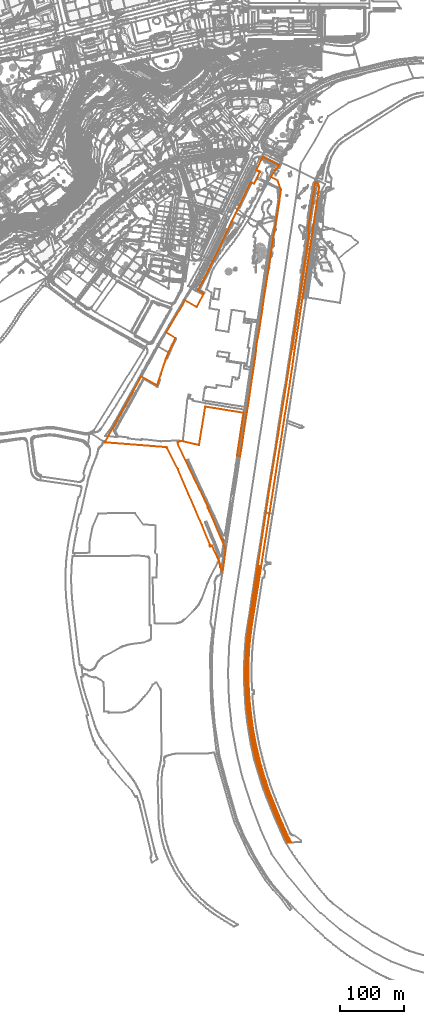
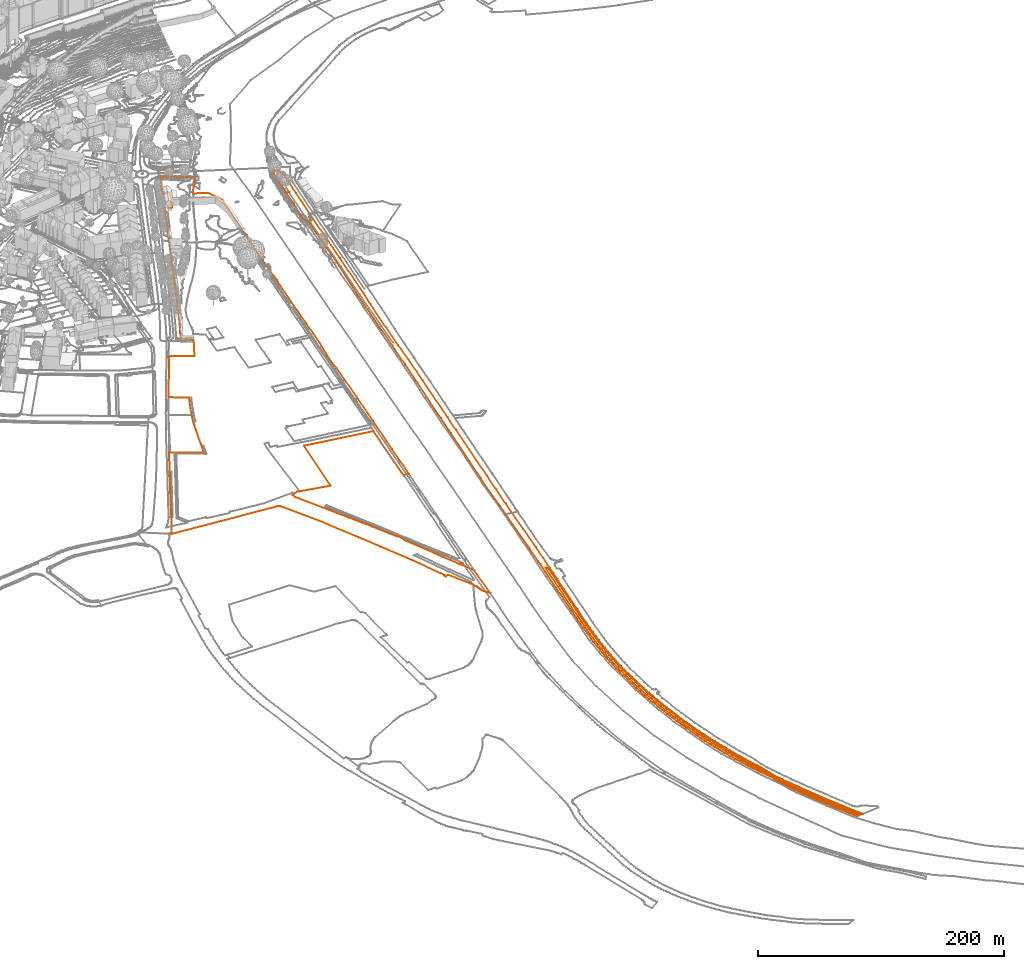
# Not in any storey, part 88 of 494: 2 proxies.
"""IFC2X3 model written with IfcOpenShell, lengths in metres."""

import ifcopenshell
import ifcopenshell.guid

model = None  # the IFC model being written
_history = None  # IfcOwnerHistory: only IFC2X3 demands one
_inside = {}  # id of a spatial element -> (the spatial element, [elements in it])
_under = {}  # id of a project, library or spatial element -> (it, [spatial elements below it])
_declared = {}  # id of a project -> (the project, [libraries it declares])
_typed = {}  # id of a type object -> (the type object, [elements of that type])
_made_of = {}  # id of a material, layer set ... -> (it, [elements and type objects made of it])


def new_model(schema):
    """Start an empty IFC model of exactly this schema.

    Asked for "IFC4X3", IfcOpenShell would pick the latest addendum, in which some entities
    have other attributes; the version numbers below select the first issue.
    IFC2X3 requires an IfcOwnerHistory on every rooted entity: one is made here for all.
    """
    global model, _history
    if schema == "IFC4X3":
        model = ifcopenshell.file(schema_version=(4, 3, 0, 0))
    else:
        model = ifcopenshell.file(schema=schema)
    _inside.clear()
    _under.clear()
    _declared.clear()
    _typed.clear()
    _made_of.clear()
    _history = None
    if model.schema == "IFC2X3":
        org = make("IfcOrganization", Name="unknown")
        user = make(
            "IfcPersonAndOrganization",
            ThePerson=make("IfcPerson", FamilyName="unknown"),
            TheOrganization=org,
        )
        app = make(
            "IfcApplication",
            ApplicationDeveloper=org,
            Version="unknown",
            ApplicationFullName="unknown",
            ApplicationIdentifier="unknown",
        )
        _history = make(
            "IfcOwnerHistory",
            OwningUser=user,
            OwningApplication=app,
            ChangeAction="ADDED",
            CreationDate=0,
        )
    return model


def make(cls, **values):
    """One entity of the class cls with the attributes given. An attribute that is None is left unset."""
    return model.create_entity(
        cls, **{name: value for name, value in values.items() if value is not None}
    )


def entity(cls, *values):
    """Any entity or typed value of the class cls, its attributes in the order of the schema. None: left unset."""
    e = model.create_entity(cls)
    for i, value in enumerate(values):
        if value is not None:
            e[i] = value
    return e


def rooted(cls, **values):
    """An entity with a GlobalId (a new one), such as an element, a storey or a relation."""
    return make(cls, GlobalId=ifcopenshell.guid.new(), OwnerHistory=_history, **values)


def si_unit(unit_type, name, prefix=None):
    """IfcSIUnit, for example si_unit("LENGTHUNIT", "METRE", prefix="MILLI")."""
    return make("IfcSIUnit", UnitType=unit_type, Prefix=prefix, Name=name)


def assignment(units):
    """IfcUnitAssignment: the units of a project."""
    return None if units is None else make("IfcUnitAssignment", Units=units)


def point(xyz):
    """IfcCartesianPoint."""
    return None if xyz is None else make("IfcCartesianPoint", Coordinates=xyz)


def direction(xyz):
    """IfcDirection."""
    return None if xyz is None else make("IfcDirection", DirectionRatios=xyz)


def frame(location, z_axis=None, x_axis=None):
    """IfcAxis2Placement3D, a coordinate frame: its origin and axes. An axis left out is left unset."""
    return make(
        "IfcAxis2Placement3D",
        Location=point(location),
        Axis=direction(z_axis),
        RefDirection=direction(x_axis),
    )


def origin_with_axes():
    """The frame at (0, 0, 0) with the z axis (0, 0, 1) and the x axis (1, 0, 0) written out."""
    return frame((0.0, 0.0, 0.0), z_axis=(0.0, 0.0, 1.0), x_axis=(1.0, 0.0, 0.0))


def place(relative_to, where):
    """IfcLocalPlacement: puts the frame where relative to a parent placement (None: the world)."""
    return make(
        "IfcLocalPlacement", PlacementRelTo=relative_to, RelativePlacement=where
    )


def context(
    kind, dimensions, precision=None, world=None, true_north=None, identifier=None
):
    """IfcGeometricRepresentationContext, for example the 3D "Model" context."""
    return make(
        "IfcGeometricRepresentationContext",
        ContextIdentifier=identifier,
        ContextType=kind,
        CoordinateSpaceDimension=dimensions,
        Precision=precision,
        WorldCoordinateSystem=world,
        TrueNorth=true_north,
    )


def subcontext(parent, identifier, kind, view, scale=None):
    """IfcGeometricRepresentationSubContext, for example "Body" below "Model"."""
    return make(
        "IfcGeometricRepresentationSubContext",
        ContextIdentifier=identifier,
        ContextType=kind,
        ParentContext=parent,
        TargetScale=scale,
        TargetView=view,
    )


def project(units=None, contexts=None):
    """IfcProject with its units and contexts."""
    return rooted(
        "IfcProject",
        Name="project",
        RepresentationContexts=contexts,
        UnitsInContext=assignment(units),
    )


def shape(context_of_items, identifier, shape_type, items):
    """IfcShapeRepresentation: the items that make up one representation, for example the "Body"."""
    return make(
        "IfcShapeRepresentation",
        ContextOfItems=context_of_items,
        RepresentationIdentifier=identifier,
        RepresentationType=shape_type,
        Items=items,
    )


def made_of(thing, what):
    """Note that an element or type object is made of a material, layer set ...; save() writes the relation."""
    if what is not None:
        _made_of.setdefault(what.id(), (what, []))[1].append(thing)
    return thing


def element(
    cls,
    number,
    at=None,
    inside=None,
    cuts=None,
    type_object=None,
    material=None,
    context=None,
    identifier="Body",
    shape_type=None,
    held_by="IfcProductDefinitionShape",
    body=None,
    shapes=None,
    **own,
):
    """One element of the class cls, such as IfcWall. Its Tag is "e" and its number.

    at: its placement. inside: the storey or other place that contains it. cuts: it is an
    opening in that element (IfcRelVoidsElement). A single representation is given by context,
    identifier, shape_type and body (its items); several are given by shapes. held_by: the class
    of the entity that holds the representations. save() writes the other relations.
    """
    e = rooted(cls, Tag="e%d" % number, ObjectPlacement=at, **own)
    if body is not None:
        shapes = [shape(context, identifier, shape_type, body)]
    if shapes is not None:
        e.Representation = make(held_by, Representations=shapes)
    if inside is not None:
        _inside.setdefault(inside.id(), (inside, []))[1].append(e)
    if cuts is not None:
        rooted(
            "IfcRelVoidsElement", RelatingBuildingElement=cuts, RelatedOpeningElement=e
        )
    if type_object is not None:
        _typed.setdefault(type_object.id(), (type_object, []))[1].append(e)
    return made_of(e, material)


def aggregate(whole, parts):
    """IfcRelAggregates: a whole, such as a stair, and the parts it consists of."""
    return rooted("IfcRelAggregates", RelatingObject=whole, RelatedObjects=parts)


def save(model, path):
    """Write the relations noted so far, then the file.

    IfcRelAggregates (storeys below a building ...), IfcRelContainedInSpatialStructure (elements
    in a storey), IfcRelDefinesByType, IfcRelAssociatesMaterial and IfcRelDeclares: one each for
    every whole, place, type object, material and project.
    """
    for whole, parts in _under.values():
        aggregate(whole, parts)
    for where, things in _inside.values():
        rooted(
            "IfcRelContainedInSpatialStructure",
            RelatedElements=things,
            RelatingStructure=where,
        )
    for kind, things in _typed.values():
        rooted("IfcRelDefinesByType", RelatedObjects=things, RelatingType=kind)
    for what, things in _made_of.values():
        rooted("IfcRelAssociatesMaterial", RelatedObjects=things, RelatingMaterial=what)
    for by, libraries in _declared.values():
        rooted("IfcRelDeclares", RelatingContext=by, RelatedDefinitions=libraries)
    model.write(path)


model = new_model("IFC2X3")

# Units and contexts
model_context = context("Model", 3, precision=1e-05, world=origin_with_axes())
body_context = subcontext(model_context, "Body", "Model", "MODEL_VIEW")
ifc_project = project(units=[si_unit("AREAUNIT", "SQUARE_METRE"), si_unit("LENGTHUNIT", "METRE")], contexts=[model_context])

# Proxies
proxy_1_placement = place(None, frame((568.6067320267, -620.2152839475, 501.975737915), z_axis=(0.0, 0.0, 1.0), x_axis=(1.0, 0.0, 0.0)))
element("IfcBuildingElementProxy", 1, at=proxy_1_placement, Name="Roads Outline 110", ObjectType="NOTDEFINED", context=body_context, shape_type="GeometricCurveSet", body=[
    entity("IfcGeometricCurveSet", [entity("IfcPolyline", [entity("IfcCartesianPoint", [0.0, 0.0, 0.0]), entity("IfcCartesianPoint", [0.074, 6.058, -0.0008581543]), entity("IfcCartesianPoint", [0.216, 12.1140000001, -0.0025048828]), entity("IfcCartesianPoint", [0.423, 18.169, -0.0049053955]), entity("IfcCartesianPoint", [0.6970000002, 24.22, -0.0066101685]), entity("IfcCartesianPoint", [1.037, 30.2689999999, -0.0065790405]), entity("IfcCartesianPoint", [1.4440000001, 36.3129999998, -0.0065417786]), entity("IfcCartesianPoint", [1.9180000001, 42.3529999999, -0.0082456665]), entity("IfcCartesianPoint", [2.4569999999, 48.3869999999, -0.0109104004]), entity("IfcCartesianPoint", [2.977, 53.625, -0.0070631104]), entity("IfcCartesianPoint", [3.551, 58.8570000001, -0.0008270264]), entity("IfcCartesianPoint", [4.6239999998, 66.9239999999, 0.0222953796]), entity("IfcCartesianPoint", [5.747, 74.9849999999, 0.0247244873]), entity("IfcCartesianPoint", [6.9199999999, 83.0379999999, 0.0336768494]), entity("IfcCartesianPoint", [9.6520000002, 100.5659999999, -0.0611358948]), entity("IfcCartesianPoint", [14.8670000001, 135.169, -0.0036011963]), entity("IfcCartesianPoint", [18.6880000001, 159.4409999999, 0.1321560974]), entity("IfcCartesianPoint", [19.503, 165.253, 0.1411845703]), entity("IfcCartesianPoint", [19.6040000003, 165.8329999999, 0.1427294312]), entity("IfcCartesianPoint", [20.4100000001, 170.487, 0.1620628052]), entity("IfcCartesianPoint", [20.5040000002, 171.0289999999, 0.1643175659]), entity("IfcCartesianPoint", [21.2220000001, 175.487, 0.1805467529]), entity("IfcCartesianPoint", [23.8990000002, 194.0360000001, 0.186010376]), entity("IfcCartesianPoint", [24.148, 195.672, 0.1871958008]), entity("IfcCartesianPoint", [24.318, 196.787, 0.188005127]), entity("IfcCartesianPoint", [33.7290000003, 258.655, -0.2722614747]), entity("IfcCartesianPoint", [37.3160000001, 283.058, -1.1686599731]), entity("IfcCartesianPoint", [40.497, 302.5970000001, -1.1722862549]), entity("IfcCartesianPoint", [44.46, 327.443, -1.1360731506]), entity("IfcCartesianPoint", [51.3939999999, 369.362, -1.1387459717]), entity("IfcCartesianPoint", [54.716, 391.45, -1.1532310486]), entity("IfcCartesianPoint", [63.6140000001, 445.0119999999, -1.1895050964]), entity("IfcCartesianPoint", [67.821, 472.3389999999, -1.1724389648]), entity("IfcCartesianPoint", [72.1350000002, 500.3149999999, -1.1918443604]), entity("IfcCartesianPoint", [76.3029999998, 528.5060000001, -1.1274802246]), entity("IfcCartesianPoint", [80.1669999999, 554.2989999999, -1.1873198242]), entity("IfcCartesianPoint", [83.3850000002, 575.5349999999, -1.1006702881]), entity("IfcCartesianPoint", [89.233, 613.9749999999, 0.7361196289]), entity("IfcCartesianPoint", [95.7489999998, 657.0759999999, 0.7942645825]), entity("IfcCartesianPoint", [99.0520000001, 681.024, 0.9663088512]), entity("IfcCartesianPoint", [97.6060000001, 688.959, 0.7845889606]), entity("IfcCartesianPoint", [101.5150000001, 711.341, 1.2635206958]), entity("IfcCartesianPoint", [103.7960000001, 727.121, 1.577916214]), entity("IfcCartesianPoint", [106.2439999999, 726.747, 1.6538060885]), entity("IfcCartesianPoint", [106.304, 727.142, 1.6608155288]), entity("IfcCartesianPoint", [103.8569999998, 727.5160000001, 1.6076824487]), entity("IfcCartesianPoint", [108.4530000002, 757.2050000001, 2.5203351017]), entity("IfcCartesianPoint", [108.0830000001, 757.385, 2.5600871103]), entity("IfcCartesianPoint", [109.2400000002, 759.7169999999, 2.4624631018]), entity("IfcCartesianPoint", [109.713, 759.4849999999, 2.4081204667]), entity("IfcCartesianPoint", [110.4050000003, 759.044, 2.3776317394]), entity("IfcCartesianPoint", [111.057, 758.5459999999, 2.3438039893]), entity("IfcCartesianPoint", [111.6639999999, 757.9939999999, 2.3172211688]), entity("IfcCartesianPoint", [112.2220000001, 757.392, 2.3171706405]), entity("IfcCartesianPoint", [112.727, 756.7449999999, 2.3392560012]), entity("IfcCartesianPoint", [113.1750000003, 756.058, 2.332768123]), entity("IfcCartesianPoint", [113.5630000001, 755.335, 2.304315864]), entity("IfcCartesianPoint", [113.8939999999, 754.5659999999, 2.2908242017]), entity("IfcCartesianPoint", [114.1570000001, 753.7709999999, 2.2643686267]), entity("IfcCartesianPoint", [114.3500000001, 752.9569999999, 2.2278802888]), entity("IfcCartesianPoint", [114.4720000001, 752.128, 2.2351414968]), entity("IfcCartesianPoint", [114.5219999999, 751.2930000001, 2.1973674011]), entity("IfcCartesianPoint", [114.4980000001, 750.456, 2.1555936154]), entity("IfcCartesianPoint", [114.4029999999, 749.6240000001, 2.130633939]), entity("IfcCartesianPoint", [110.4739999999, 723.402, 1.4649871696]), entity("IfcCartesianPoint", [108.3450000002, 709.4409999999, 1.2927663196]), entity("IfcCartesianPoint", [100.2370000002, 655.7249999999, 0.7095744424]), entity("IfcCartesianPoint", [95.8769999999, 626.8540000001, 0.6976692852]), entity("IfcCartesianPoint", [88.0240000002, 574.679, 0.2772061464]), entity("IfcCartesianPoint", [85.75, 559.5959999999, -0.9008512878]), entity("IfcCartesianPoint", [80.4870000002, 524.6839999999, -1.1909428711]), entity("IfcCartesianPoint", [76.5759999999, 498.925, -1.1364573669]), entity("IfcCartesianPoint", [73.5649999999, 476.7309999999, -1.1513120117]), entity("IfcCartesianPoint", [68.9530000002, 445.8499999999, -1.2243086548]), entity("IfcCartesianPoint", [60.2340000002, 390.274, -1.2055106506]), entity("IfcCartesianPoint", [57.2850000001, 371.2590000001, -1.1775828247]), entity("IfcCartesianPoint", [50.077, 325.2749999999, -1.123829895]), entity("IfcCartesianPoint", [46.4449999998, 302.1979999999, -1.1230756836]), entity("IfcCartesianPoint", [43.1779999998, 281.226, -1.1444847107]), entity("IfcCartesianPoint", [39.8880000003, 260.2849999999, -1.1779361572]), entity("IfcCartesianPoint", [33.9210000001, 222.1850000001, -0.3636560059]), entity("IfcCartesianPoint", [29.3820000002, 193.236, 0.3308495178]), entity("IfcCartesianPoint", [26.7549999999, 176.4919999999, 0.1766451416]), entity("IfcCartesianPoint", [25.1430000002, 166.5600000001, 0.1818431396]), entity("IfcCartesianPoint", [24.4360000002, 161.804, 0.1885668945]), entity("IfcCartesianPoint", [23.2400000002, 154.0999999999, 0.1833579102]), entity("IfcCartesianPoint", [21.8190000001, 145.2709999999, 0.1865919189]), entity("IfcCartesianPoint", [19.4220000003, 130.102, 0.140287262]), entity("IfcCartesianPoint", [14.7620000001, 100.4720000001, -0.0078661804]), entity("IfcCartesianPoint", [11.3510000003, 78.699, -0.0565014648]), entity("IfcCartesianPoint", [10.398, 72.3959999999, -0.0620693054]), entity("IfcCartesianPoint", [9.5150000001, 66.0829999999, -0.0597801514]), entity("IfcCartesianPoint", [8.7009999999, 59.76, -0.0415466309]), entity("IfcCartesianPoint", [8.0079999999, 53.8799999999, -0.0097011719]), entity("IfcCartesianPoint", [7.375, 47.9919999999, 0.0190554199]), entity("IfcCartesianPoint", [6.8020000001, 42.0989999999, 0.0374687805]), entity("IfcCartesianPoint", [6.3229999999, 36.2679999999, 0.0388221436]), entity("IfcCartesianPoint", [5.9169999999, 30.432, 0.0288852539]), entity("IfcCartesianPoint", [5.5840000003, 24.591, 0.0207350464]), entity("IfcCartesianPoint", [5.324, 18.746, 0.0209068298]), entity("IfcCartesianPoint", [5.1370000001, 12.899, 0.021277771]), entity("IfcCartesianPoint", [5.0240000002, 7.0489999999, 0.0215019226]), entity("IfcCartesianPoint", [4.983, 1.199, 0.021583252]), entity("IfcCartesianPoint", [5.014, -5.1440000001, 0.021521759]), entity("IfcCartesianPoint", [5.1180000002, -11.486, 0.0213154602]), entity("IfcCartesianPoint", [5.2940000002, -17.827, 0.0209663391]), entity("IfcCartesianPoint", [5.5430000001, -24.165, 0.0204724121]), entity("IfcCartesianPoint", [5.8640000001, -30.5, 0.0275880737]), entity("IfcCartesianPoint", [6.2570000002, -36.831, 0.0372067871]), entity("IfcCartesianPoint", [6.7540000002, -43.5109999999, 0.039011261]), entity("IfcCartesianPoint", [7.3300000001, -50.1840000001, 0.0205014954]), entity("IfcCartesianPoint", [7.9849999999, -56.8500000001, -0.008519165]), entity("IfcCartesianPoint", [8.719, -63.507, -0.0419498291]), entity("IfcCartesianPoint", [9.5320000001, -70.156, -0.0601609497]), entity("IfcCartesianPoint", [10.3020000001, -75.9790000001, -0.0619491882]), entity("IfcCartesianPoint", [11.1350000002, -81.794, -0.0581032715]), entity("IfcCartesianPoint", [12.0329999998, -87.5989999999, -0.0598187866]), entity("IfcCartesianPoint", [12.9939999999, -93.3940000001, -0.0642133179]), entity("IfcCartesianPoint", [14.0180000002, -99.1780000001, -0.0414618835]), entity("IfcCartesianPoint", [15.1609999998, -105.2450000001, 0.0083407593]), entity("IfcCartesianPoint", [16.375, -111.298, 0.0654055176]), entity("IfcCartesianPoint", [17.659, -117.3360000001, 0.1205064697]), entity("IfcCartesianPoint", [19.0120000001, -123.3600000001, 0.1357453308]), entity("IfcCartesianPoint", [20.4360000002, -129.3670000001, 0.1626864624]), entity("IfcCartesianPoint", [21.8930000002, -135.209, 0.1860567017]), entity("IfcCartesianPoint", [23.415, -141.034, 0.1839346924]), entity("IfcCartesianPoint", [25.0019999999, -146.841, 0.1836589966]), entity("IfcCartesianPoint", [26.6540000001, -152.6310000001, 0.1712295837]), entity("IfcCartesianPoint", [28.3710000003, -158.4010000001, 0.2535772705]), entity("IfcCartesianPoint", [30.1520000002, -164.152, 0.358254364]), entity("IfcCartesianPoint", [31.9980000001, -169.8830000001, 0.3377287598]), entity("IfcCartesianPoint", [34.2439999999, -176.4950000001, -0.5174082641]), entity("IfcCartesianPoint", [36.551, -183.085, -1.1601147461]), entity("IfcCartesianPoint", [38.9169999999, -189.655, -1.1816155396]), entity("IfcCartesianPoint", [52.554, -223.6240000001, -1.1411969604]), entity("IfcCartesianPoint", [55.6860000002, -230.9440000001, -1.1624337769]), entity("IfcCartesianPoint", [58.8769999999, -238.2380000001, -1.1926525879]), entity("IfcCartesianPoint", [62.1269999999, -245.507, -1.2003508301]), entity("IfcCartesianPoint", [65.4350000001, -252.7490000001, -1.1762232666]), entity("IfcCartesianPoint", [68.8020000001, -259.9639999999, -1.2214838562]), entity("IfcCartesianPoint", [71.747, -265.2409999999, -1.1819691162]), entity("IfcCartesianPoint", [69.861, -265.3430000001, -1.2289047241]), entity("IfcCartesianPoint", [67.551, -260.655, -1.1577392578]), entity("IfcCartesianPoint", [64.165, -253.422, -1.1854862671]), entity("IfcCartesianPoint", [60.8450000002, -246.159, -1.2075300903]), entity("IfcCartesianPoint", [57.5890000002, -238.8659999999, -1.1804675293]), entity("IfcCartesianPoint", [54.3999999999, -231.544, -1.1502371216]), entity("IfcCartesianPoint", [51.2760000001, -224.1940000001, -1.1373919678]), entity("IfcCartesianPoint", [48.2760000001, -216.9580000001, -1.1130236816]), entity("IfcCartesianPoint", [45.3399999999, -209.6950000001, -1.1302992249]), entity("IfcCartesianPoint", [42.4679999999, -202.4070000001, -1.149608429]), entity("IfcCartesianPoint", [39.6609999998, -195.094, -1.1800421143]), entity("IfcCartesianPoint", [37.4250000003, -189.0760000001, -1.1698774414]), entity("IfcCartesianPoint", [35.2400000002, -183.04, -0.9915582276]), entity("IfcCartesianPoint", [33.105, -176.986, 0.0227229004]), entity("IfcCartesianPoint", [31.02, -170.9140000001, 0.3746740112]), entity("IfcCartesianPoint", [29.1529999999, -165.129, 0.3113724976]), entity("IfcCartesianPoint", [27.355, -159.3219999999, 0.2088167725]), entity("IfcCartesianPoint", [25.6260000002, -153.493, 0.1758058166]), entity("IfcCartesianPoint", [23.9670000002, -147.645, 0.1863341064]), entity("IfcCartesianPoint", [22.378, -141.777, 0.1825488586]), entity("IfcCartesianPoint", [20.8590000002, -135.8910000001, 0.1723934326]), entity("IfcCartesianPoint", [19.4100000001, -129.987, 0.1401543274]), entity("IfcCartesianPoint", [18.1540000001, -124.7150000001, 0.1261259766]), entity("IfcCartesianPoint", [16.9479999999, -119.432, 0.0919393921]), entity("IfcCartesianPoint", [15.7940000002, -114.1370000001, 0.0362030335]), entity("IfcCartesianPoint", [14.6910000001, -108.831, -0.0107501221]), entity("IfcCartesianPoint", [13.639, -103.5150000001, -0.0591696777]), entity("IfcCartesianPoint", [12.6180000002, -98.024, -0.0654296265]), entity("IfcCartesianPoint", [11.6540000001, -92.5220000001, -0.0557590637]), entity("IfcCartesianPoint", [10.7489999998, -87.0109999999, -0.0609657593]), entity("IfcCartesianPoint", [9.9020000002, -81.49, -0.0614487]), entity("IfcCartesianPoint", [9.1129999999, -75.96, -0.0507753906]), entity("IfcCartesianPoint", [8.3820000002, -70.423, -0.0289216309]), entity("IfcCartesianPoint", [7.5989999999, -64.0190000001, 0.0113179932]), entity("IfcCartesianPoint", [6.892, -57.6060000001, 0.0345766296]), entity("IfcCartesianPoint", [6.2590000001, -51.186, 0.0372557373]), entity("IfcCartesianPoint", [5.7009999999, -44.7590000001, 0.0235986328]), entity("IfcCartesianPoint", [5.219, -38.325, 0.0211151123]), entity("IfcCartesianPoint", [4.8020000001, -31.8419999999, 0.0219422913]), entity("IfcCartesianPoint", [4.46, -25.3540000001, 0.0198463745]), entity("IfcCartesianPoint", [4.1910000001, -18.8630000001, 0.0136566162]), entity("IfcCartesianPoint", [3.997, -12.3700000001, 0.009192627]), entity("IfcCartesianPoint", [3.8769999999, -5.8740000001, 0.0064313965]), entity("IfcCartesianPoint", [3.8310000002, 0.622, 0.0053729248]), entity("IfcCartesianPoint", [3.8259999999, 1.662, 0.0052578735]), entity("IfcCartesianPoint", [3.8229999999, 2.702, 0.0051888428]), entity("IfcCartesianPoint", [3.8530000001, 8.2849999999, 0.0058791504]), entity("IfcCartesianPoint", [3.9550000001, 13.8669999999, 0.0082261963]), entity("IfcCartesianPoint", [4.1299999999, 19.4469999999, 0.0122529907]), entity("IfcCartesianPoint", [4.378, 25.0249999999, 0.0179595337]), entity("IfcCartesianPoint", [4.6979999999, 30.598, 0.0221485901]), entity("IfcCartesianPoint", [5.091, 36.1669999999, 0.0213690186]), entity("IfcCartesianPoint", [5.5559999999, 41.7309999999, 0.0204466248]), entity("IfcCartesianPoint", [6.094, 47.2879999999, 0.0332173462]), entity("IfcCartesianPoint", [6.7960000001, 53.419, 0.0376615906]), entity("IfcCartesianPoint", [7.5389999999, 59.5449999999, 0.0137852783]), entity("IfcCartesianPoint", [8.3710000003, 66.01, -0.0283563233]), entity("IfcCartesianPoint", [9.2489999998, 72.4679999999, -0.0538217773]), entity("IfcCartesianPoint", [10.173, 78.9199999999, -0.0617877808]), entity("IfcCartesianPoint", [11.2489999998, 86.1189999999, -0.0572578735]), entity("IfcCartesianPoint", [12.378, 93.3100000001, -0.0635143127]), entity("IfcCartesianPoint", [13.5589999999, 100.4919999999, -0.0623856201]), entity("IfcCartesianPoint", [17.5189999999, 125.79, 0.1172064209]), entity("IfcCartesianPoint", [22.176, 155.5559999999, 0.1840098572]), entity("IfcCartesianPoint", [23.3450000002, 162.733, 0.1837039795]), entity("IfcCartesianPoint", [21.5279999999, 164.2239999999, 0.1874197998]), entity("IfcCartesianPoint", [20.7620000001, 159.1169999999, 0.1702147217]), entity("IfcCartesianPoint", [16.9709999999, 135.1639999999, 0.0929571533]), entity("IfcCartesianPoint", [11.4279999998, 100.5899999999, -0.0559304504]), entity("IfcCartesianPoint", [8.7110000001, 82.612, -0.0417706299]), entity("IfcCartesianPoint", [7.8059999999, 76.7309999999, 0.0006799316]), entity("IfcCartesianPoint", [6.9530000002, 70.8419999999, 0.032616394]), entity("IfcCartesianPoint", [6.1520000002, 64.9450000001, 0.0346369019]), entity("IfcCartesianPoint", [5.4029999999, 59.0419999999, 0.0207501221]), entity("IfcCartesianPoint", [4.7579999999, 53.5759999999, 0.0220295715]), entity("IfcCartesianPoint", [4.1579999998, 48.1040000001, 0.0128972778]), entity("IfcCartesianPoint", [3.591, 42.1529999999, -0.0001495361]), entity("IfcCartesianPoint", [3.1010000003, 36.1950000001, -0.0057159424]), entity("IfcCartesianPoint", [2.6890000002, 30.2309999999, -0.0101920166]), entity("IfcCartesianPoint", [2.3540000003, 24.263, -0.0104011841]), entity("IfcCartesianPoint", [2.0959999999, 18.29, -0.0091256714]), entity("IfcCartesianPoint", [1.9160000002, 12.3149999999, -0.0082357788]), entity("IfcCartesianPoint", [1.8140000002, 6.338, -0.0077315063]), entity("IfcCartesianPoint", [1.7889999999, 0.3599999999, -0.0076079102]), entity("IfcCartesianPoint", [1.8360000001, -6.1170000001, -0.007840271]), entity("IfcCartesianPoint", [1.9569999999, -12.5919999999, -0.0084384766]), entity("IfcCartesianPoint", [2.1520000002, -19.0660000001, -0.0094025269]), entity("IfcCartesianPoint", [2.4210000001, -25.537, -0.0107324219]), entity("IfcCartesianPoint", [2.764, -32.0050000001, -0.0093771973]), entity("IfcCartesianPoint", [3.1809999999, -38.4680000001, -0.0048468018]), entity("IfcCartesianPoint", [3.6770000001, -44.996, 0.0018293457]), entity("IfcCartesianPoint", [4.2480000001, -51.5179999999, 0.0149682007]), entity("IfcCartesianPoint", [4.895, -58.0320000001, 0.0217578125]), entity("IfcCartesianPoint", [5.6170000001, -64.5390000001, 0.0215427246]), entity("IfcCartesianPoint", [6.4139999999, -71.037, 0.0410493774]), entity("IfcCartesianPoint", [7.2170000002, -77.108, 0.0241327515]), entity("IfcCartesianPoint", [8.091, -83.169, -0.0139666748]), entity("IfcCartesianPoint", [9.0389999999, -89.219, -0.0491177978]), entity("IfcCartesianPoint", [10.0580000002, -95.257, -0.0616438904]), entity("IfcCartesianPoint", [11.1490000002, -101.2830000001, -0.0579994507]), entity("IfcCartesianPoint", [12.2430000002, -106.888, -0.0620682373]), entity("IfcCartesianPoint", [13.3930000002, -112.4810000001, -0.0629226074]), entity("IfcCartesianPoint", [14.5989999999, -118.0620000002, -0.0144870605]), entity("IfcCartesianPoint", [15.8620000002, -123.6310000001, 0.0396208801]), entity("IfcCartesianPoint", [17.1800000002, -129.1870000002, 0.1022055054]), entity("IfcCartesianPoint", [18.673, -135.243, 0.1319899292]), entity("IfcCartesianPoint", [20.236, -141.2820000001, 0.1578890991]), entity("IfcCartesianPoint", [21.8689999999, -147.301, 0.1862302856]), entity("IfcCartesianPoint", [23.5720000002, -153.3020000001, 0.1844536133]), entity("IfcCartesianPoint", [25.344, -159.2830000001, 0.1792545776]), entity("IfcCartesianPoint", [27.1850000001, -165.2420000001, 0.1997014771]), entity("IfcCartesianPoint", [29.0950000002, -171.1799999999, 0.3064394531]), entity("IfcCartesianPoint", [31.1779999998, -177.2860000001, 0.3775767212]), entity("IfcCartesianPoint", [33.3100000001, -183.375, -0.0739589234]), entity("IfcCartesianPoint", [35.4930000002, -189.4469999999, -1.112005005]), entity("IfcCartesianPoint", [37.7250000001, -195.5, -1.1731248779]), entity("IfcCartesianPoint", [49.5270000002, -225.2490000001, -1.1179465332]), entity("IfcCartesianPoint", [52.122, -231.3260000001, -1.1410123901]), entity("IfcCartesianPoint", [54.7710000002, -237.3800000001, -1.1537530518]), entity("IfcCartesianPoint", [57.4739999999, -243.4100000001, -1.1793766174]), entity("IfcCartesianPoint", [60.2310000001, -249.416, -1.2054821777]), entity("IfcCartesianPoint", [63.04, -255.3970000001, -1.1936916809]), entity("IfcCartesianPoint", [65.9029999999, -261.3530000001, -1.1728098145]), entity("IfcCartesianPoint", [67.9279999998, -265.4469999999, -1.178819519]), entity("IfcCartesianPoint", [65.9790000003, -265.5530000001, -1.1722554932]), entity("IfcCartesianPoint", [64.5929999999, -262.912, -1.182364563]), entity("IfcCartesianPoint", [61.6710000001, -256.8090000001, -1.2036767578]), entity("IfcCartesianPoint", [58.804, -250.6810000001, -1.1919619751]), entity("IfcCartesianPoint", [55.9920000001, -244.527, -1.1653286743]), entity("IfcCartesianPoint", [53.2349999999, -238.348, -1.1419945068]), entity("IfcCartesianPoint", [50.534, -232.1440000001, -1.1288924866]), entity("IfcCartesianPoint", [47.889, -225.9170000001, -1.1144881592]), entity("IfcCartesianPoint", [45.4309999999, -219.986, -1.1297021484]), entity("IfcCartesianPoint", [43.0240000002, -214.034, -1.1454951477]), entity("IfcCartesianPoint", [40.6669999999, -208.0620000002, -1.1704425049]), entity("IfcCartesianPoint", [38.3620000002, -202.0700000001, -1.1798121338]), entity("IfcCartesianPoint", [36.108, -196.058, -1.1551531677]), entity("IfcCartesianPoint", [33.196, -188.2690000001, -0.020194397]), entity("IfcCartesianPoint", [30.341, -180.459, 0.3619400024]), entity("IfcCartesianPoint", [27.5449999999, -172.628, 0.2190044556]), entity("IfcCartesianPoint", [24.8059999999, -164.777, 0.1861831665]), entity("IfcCartesianPoint", [22.9810000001, -158.9950000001, 0.1825042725]), entity("IfcCartesianPoint", [21.2290000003, -153.1899999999, 0.1807039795]), entity("IfcCartesianPoint", [19.5500000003, -147.3630000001, 0.1417052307]), entity("IfcCartesianPoint", [17.9449999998, -141.5160000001, 0.1237532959]), entity("IfcCartesianPoint", [16.415, -135.649, 0.0674160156]), entity("IfcCartesianPoint", [14.9580000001, -129.763, 9.51233e-05]), entity("IfcCartesianPoint", [13.6340000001, -124.142, -0.0594032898]), entity("IfcCartesianPoint", [12.3769999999, -118.5060000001, -0.0635036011]), entity("IfcCartesianPoint", [11.1869999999, -112.855, -0.0577176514]), entity("IfcCartesianPoint", [10.0649999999, -107.1899999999, -0.0616526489]), entity("IfcCartesianPoint", [9.0090000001, -101.513, -0.0484458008]), entity("IfcCartesianPoint", [7.9569999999, -95.4739999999, -0.0070802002]), entity("IfcCartesianPoint", [6.98, -89.422, 0.0317487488]), entity("IfcCartesianPoint", [6.0789999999, -83.3589999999, 0.0328502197]), entity("IfcCartesianPoint", [5.2519999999, -77.2850000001, 0.0210496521]), entity("IfcCartesianPoint", [4.5010000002, -71.2010000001, 0.0207897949]), entity("IfcCartesianPoint", [3.7119999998, -64.6510000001, 0.0026347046]), entity("IfcCartesianPoint", [2.9870000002, -58.0930000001, -0.0069544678]), entity("IfcCartesianPoint", [2.327, -51.5279999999, -0.0102677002]), entity("IfcCartesianPoint", [1.7319999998, -44.9569999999, -0.0073261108]), entity("IfcCartesianPoint", [1.202, -38.3810000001, -0.0065639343]), entity("IfcCartesianPoint", [0.804, -31.9920000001, -0.0066003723]), entity("IfcCartesianPoint", [0.486, -25.5989999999, -0.0056359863]), entity("IfcCartesianPoint", [0.2460000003, -19.202, -0.0028527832]), entity("IfcCartesianPoint", [0.085, -12.8020000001, -0.0009857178]), entity("IfcCartesianPoint", [0.003, -6.4010000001, -3.479e-05]), entity("IfcCartesianPoint", [0.0, 0.0, 0.0])])]),
])
proxy_2_placement = place(None, frame((350.3227320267, -264.1862839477, 503.2477230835), z_axis=(0.0, 0.0, 1.0), x_axis=(1.0, 0.0, 0.0)))
element("IfcBuildingElementProxy", 2, at=proxy_2_placement, Name="Cadastre 147", ObjectType="NOTDEFINED", context=body_context, shape_type="GeometricCurveSet", body=[
    entity("IfcGeometricCurveSet", [entity("IfcPolyline", [entity("IfcCartesianPoint", [0.0, 0.0, 0.0]), entity("IfcCartesianPoint", [10.6000000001, 18.621, -0.2825669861]), entity("IfcCartesianPoint", [22.4500000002, 40.7170000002, -0.5289651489]), entity("IfcCartesianPoint", [53.5830000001, 96.8330000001, -1.0836112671]), entity("IfcCartesianPoint", [56.6129999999, 102.1930000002, -1.1209400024]), entity("IfcCartesianPoint", [81.2850000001, 88.3530000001, -1.3441882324]), entity("IfcCartesianPoint", [87.2310000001, 106.223, -1.2342042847]), entity("IfcCartesianPoint", [91.5720000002, 119.3530000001, -1.2645101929]), entity("IfcCartesianPoint", [93.5619999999, 125.003, -1.279603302]), entity("IfcCartesianPoint", [94.7090000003, 128.1460000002, -1.2756437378]), entity("IfcCartesianPoint", [95.906, 131.27, -1.2735786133]), entity("IfcCartesianPoint", [97.1520000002, 134.3740000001, -1.2660647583]), entity("IfcCartesianPoint", [98.4789999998, 137.6070000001, -1.2700553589]), entity("IfcCartesianPoint", [99.8599999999, 140.817, -1.2199867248]), entity("IfcCartesianPoint", [101.2930000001, 144.0040000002, -1.2719567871]), entity("IfcCartesianPoint", [105.2829999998, 152.6040000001, -1.3580748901]), entity("IfcCartesianPoint", [109.6740000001, 161.594, -1.3455012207]), entity("IfcCartesianPoint", [95.3760000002, 170.564, -1.2740407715]), entity("IfcCartesianPoint", [120.8470000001, 213.3250000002, -1.2408973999]), entity("IfcCartesianPoint", [124.4399999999, 220.6300000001, -1.2829025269]), entity("IfcCartesianPoint", [142.7110000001, 209.9550000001, -0.761979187]), entity("IfcCartesianPoint", [152.9870000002, 229.223, -0.8975912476]), entity("IfcCartesianPoint", [152.5529999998, 229.4380000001, -0.90090271]), entity("IfcCartesianPoint", [153.5290000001, 231.0430000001, -0.9197555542]), entity("IfcCartesianPoint", [144.747, 236.2450000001, -0.8859556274]), entity("IfcCartesianPoint", [152.5279999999, 250.6460000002, -0.9016236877]), entity("IfcCartesianPoint", [160.358, 266.0560000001, -1.058708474]), entity("IfcCartesianPoint", [167.8790000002, 281.6460000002, -1.0743693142]), entity("IfcCartesianPoint", [167.9890000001, 281.5960000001, -1.0851980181]), entity("IfcCartesianPoint", [226.6189999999, 404.186, -0.7053849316]), entity("IfcCartesianPoint", [232.1359999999, 401.544, -0.9589194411]), entity("IfcCartesianPoint", [241.034, 420.159, -0.7852908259]), entity("IfcCartesianPoint", [235.52, 422.8010000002, -0.6842505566]), entity("IfcCartesianPoint", [245.2039999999, 443.0530000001, -0.1415204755]), entity("IfcCartesianPoint", [270.952, 430.4640000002, -2.2228779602]), entity("IfcCartesianPoint", [265.3220000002, 424.1030000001, -1.7656507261]), entity("IfcCartesianPoint", [258.0130000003, 411.9710000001, -2.5167092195]), entity("IfcCartesianPoint", [268.7319999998, 406.5220000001, -2.437278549]), entity("IfcCartesianPoint", [273.852, 392.0410000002, -2.3644540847]), entity("IfcCartesianPoint", [266.5440000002, 344.888, -2.5388882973]), entity("IfcCartesianPoint", [264.3050000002, 335.4680000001, -1.9758593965]), entity("IfcCartesianPoint", [262.9350000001, 324.9780000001, -2.3666528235]), entity("IfcCartesianPoint", [250.1400000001, 242.1360000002, -0.9186038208]), entity("IfcCartesianPoint", [247.4390000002, 225.1850000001, -0.9604425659]), entity("IfcCartesianPoint", [244.7390000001, 205.6040000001, -1.1040979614]), entity("IfcCartesianPoint", [240.318, 175.8020000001, -1.0869482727]), entity("IfcCartesianPoint", [235.8369999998, 152.4800000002, -1.153274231]), entity("IfcCartesianPoint", [234.5470000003, 138.0490000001, -1.2122090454]), entity("IfcCartesianPoint", [231.8369999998, 119.4980000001, -1.3343901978]), entity("IfcCartesianPoint", [228.0660000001, 94.767, -1.3332837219]), entity("IfcCartesianPoint", [222.855, 58.8940000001, -1.2495846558]), entity("IfcCartesianPoint", [215.9640000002, 16.091, -1.2828160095]), entity("IfcCartesianPoint", [212.4530000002, -8.5599999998, -1.267366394]), entity("IfcCartesianPoint", [210.3229999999, -21.291, -1.2698099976]), entity("IfcCartesianPoint", [205.4530000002, -20.531, -1.2787252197]), entity("IfcCartesianPoint", [215.5750000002, 45.7640000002, -1.277527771]), entity("IfcCartesianPoint", [156.0869999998, 55.4470000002, -0.818260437]), entity("IfcCartesianPoint", [146.4950000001, -4.3569999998, -0.8156686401]), entity("IfcCartesianPoint", [118.926, 2.165, -1.2108586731]), entity("IfcCartesianPoint", [113.3459999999, 0.175, -1.2675257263]), entity("IfcCartesianPoint", [113.9360000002, -3.3949999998, -1.2788543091]), entity("IfcCartesianPoint", [142.1340000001, -62.2009999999, -0.7487903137]), entity("IfcCartesianPoint", [146.8629999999, -71.5719999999, -0.8096906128]), entity("IfcCartesianPoint", [154.0630000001, -86.5229999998, -0.9227401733]), entity("IfcCartesianPoint", [157.3190000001, -93.8259999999, -0.8035988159]), entity("IfcCartesianPoint", [157.7620000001, -93.5939999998, -0.855634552]), entity("IfcCartesianPoint", [160.6269999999, -100.784, -1.2177380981]), entity("IfcCartesianPoint", [160.1660000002, -100.977, -1.1763623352]), entity("IfcCartesianPoint", [181.9700000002, -151.7589999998, -1.448805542]), entity("IfcCartesianPoint", [183.5600000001, -151.0689999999, -1.4595140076]), entity("IfcCartesianPoint", [184.3199999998, -152.7789999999, -1.4522181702]), entity("IfcCartesianPoint", [182.7200000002, -153.5089999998, -1.4583728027]), entity("IfcCartesianPoint", [188.0890000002, -166.0399999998, -1.3678596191]), entity("IfcCartesianPoint", [183.2280000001, -200.453, -1.4597875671]), entity("IfcCartesianPoint", [179.2390000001, -193.7319999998, -1.4383287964]), entity("IfcCartesianPoint", [179.179, -192.3679999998, -1.4396984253]), entity("IfcCartesianPoint", [179.0529999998, -191.0089999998, -1.442574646]), entity("IfcCartesianPoint", [178.861, -189.6579999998, -1.4469574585]), entity("IfcCartesianPoint", [178.602, -188.3169999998, -1.4424078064]), entity("IfcCartesianPoint", [178.2790000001, -186.9909999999, -1.4364244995]), entity("IfcCartesianPoint", [177.9530000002, -185.6699999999, -1.4303856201]), entity("IfcCartesianPoint", [177.5630000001, -184.3659999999, -1.4383814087]), entity("IfcCartesianPoint", [177.1099999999, -183.0829999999, -1.4536021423]), entity("IfcCartesianPoint", [176.5950000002, -181.8239999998, -1.4644869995]), entity("IfcCartesianPoint", [176.0189999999, -180.591, -1.469619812]), entity("IfcCartesianPoint", [166.5600000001, -160.5589999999, -1.5593609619]), entity("IfcCartesianPoint", [163.7800000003, -161.7589999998, -1.4344792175]), entity("IfcCartesianPoint", [162.9700000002, -160.0589999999, -1.3799732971]), entity("IfcCartesianPoint", [163.8999999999, -159.679, -1.4416423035]), entity("IfcCartesianPoint", [151.1000000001, -128.602, -0.9428059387]), entity("IfcCartesianPoint", [138.3930000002, -99.1129999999, -0.7537919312]), entity("IfcCartesianPoint", [129.8640000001, -79.3319999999, -0.957428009]), entity("IfcCartesianPoint", [113.6209999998, -41.6609999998, -1.2727541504]), entity("IfcCartesianPoint", [97.2620000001, -9.2749999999, -1.2682803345]), entity("IfcCartesianPoint", [97.0049999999, -8.848, -1.2631039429]), entity("IfcCartesianPoint", [96.6890000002, -8.4619999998, -1.2624434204]), entity("IfcCartesianPoint", [96.3220000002, -8.125, -1.2676625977]), entity("IfcCartesianPoint", [95.9279999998, -7.855, -1.2732657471]), entity("IfcCartesianPoint", [95.5, -7.642, -1.2741088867]), entity("IfcCartesianPoint", [95.0470000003, -7.49, -1.2738600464]), entity("IfcCartesianPoint", [0.0, 0.0, 0.0])])]),
])

save(model, "model.ifc")
